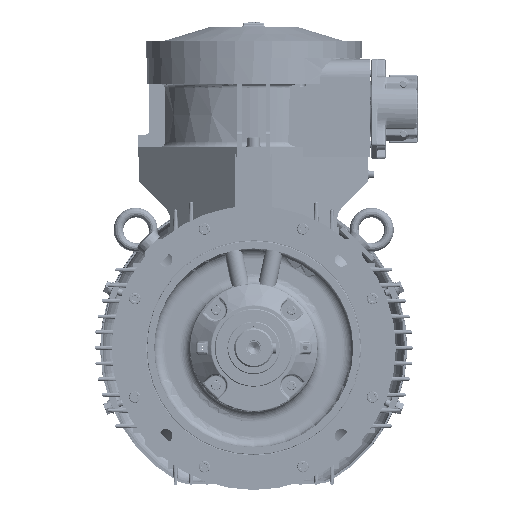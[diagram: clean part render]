
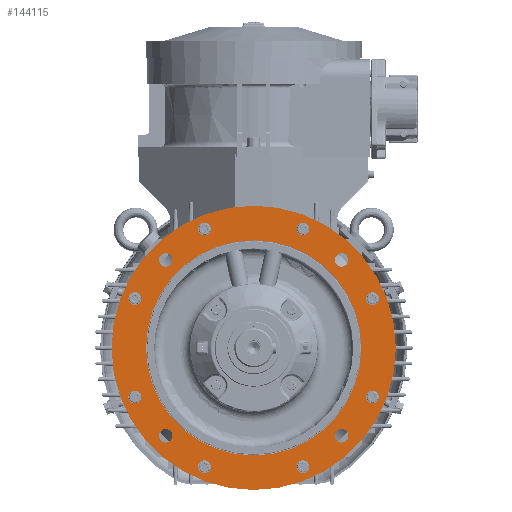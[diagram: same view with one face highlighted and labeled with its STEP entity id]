
A CAD part, left-side view. The second image highlights one B-rep face of the part: STEP entity #144115.
In plain terms, the highlighted planar face has unit normal (-1, 0, 0).
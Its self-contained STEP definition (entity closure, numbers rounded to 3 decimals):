
#27051=PLANE('',#153540);
#44295=ORIENTED_EDGE('',*,*,#75255,.F.);
#44296=ORIENTED_EDGE('',*,*,#75253,.F.);
#44297=ORIENTED_EDGE('',*,*,#75248,.T.);
#44298=ORIENTED_EDGE('',*,*,#75244,.T.);
#44299=ORIENTED_EDGE('',*,*,#75240,.T.);
#44300=ORIENTED_EDGE('',*,*,#75236,.T.);
#44301=ORIENTED_EDGE('',*,*,#75232,.T.);
#44302=ORIENTED_EDGE('',*,*,#75228,.T.);
#44303=ORIENTED_EDGE('',*,*,#75224,.T.);
#44304=ORIENTED_EDGE('',*,*,#75220,.T.);
#44305=ORIENTED_EDGE('',*,*,#75218,.F.);
#44306=ORIENTED_EDGE('',*,*,#75216,.F.);
#44307=ORIENTED_EDGE('',*,*,#75214,.F.);
#44308=ORIENTED_EDGE('',*,*,#75212,.F.);
#75212=EDGE_CURVE('',#91713,#91713,#101875,.T.);
#75214=EDGE_CURVE('',#91715,#91715,#101877,.T.);
#75216=EDGE_CURVE('',#91717,#91717,#101879,.T.);
#75218=EDGE_CURVE('',#91719,#91719,#101881,.T.);
#75220=EDGE_CURVE('',#91721,#91721,#101883,.T.);
#75224=EDGE_CURVE('',#91725,#91725,#101887,.T.);
#75228=EDGE_CURVE('',#91729,#91729,#101891,.T.);
#75232=EDGE_CURVE('',#91733,#91733,#101895,.T.);
#75236=EDGE_CURVE('',#91737,#91737,#101899,.T.);
#75240=EDGE_CURVE('',#91741,#91741,#101903,.T.);
#75244=EDGE_CURVE('',#91745,#91745,#101907,.T.);
#75248=EDGE_CURVE('',#91749,#91749,#101911,.T.);
#75253=EDGE_CURVE('',#91754,#91754,#101916,.T.);
#75255=EDGE_CURVE('',#91756,#91756,#101918,.T.);
#91713=VERTEX_POINT('',#218428);
#91715=VERTEX_POINT('',#218433);
#91717=VERTEX_POINT('',#218438);
#91719=VERTEX_POINT('',#218443);
#91721=VERTEX_POINT('',#218448);
#91725=VERTEX_POINT('',#218459);
#91729=VERTEX_POINT('',#218470);
#91733=VERTEX_POINT('',#218481);
#91737=VERTEX_POINT('',#218492);
#91741=VERTEX_POINT('',#218503);
#91745=VERTEX_POINT('',#218514);
#91749=VERTEX_POINT('',#218525);
#91754=VERTEX_POINT('',#218539);
#91756=VERTEX_POINT('',#218545);
#101875=CIRCLE('',#153467,9.5);
#101877=CIRCLE('',#153470,9.5);
#101879=CIRCLE('',#153473,9.5);
#101881=CIRCLE('',#153476,9.5);
#101883=CIRCLE('',#153479,9.);
#101887=CIRCLE('',#153486,9.);
#101891=CIRCLE('',#153493,9.);
#101895=CIRCLE('',#153500,9.);
#101899=CIRCLE('',#153507,9.);
#101903=CIRCLE('',#153514,9.);
#101907=CIRCLE('',#153521,9.);
#101911=CIRCLE('',#153528,9.);
#101916=CIRCLE('',#153537,151.4);
#101918=CIRCLE('',#153541,199.994);
#107435=EDGE_LOOP('',(#44295));
#107436=EDGE_LOOP('',(#44296));
#107437=EDGE_LOOP('',(#44297));
#107438=EDGE_LOOP('',(#44298));
#107439=EDGE_LOOP('',(#44299));
#107440=EDGE_LOOP('',(#44300));
#107441=EDGE_LOOP('',(#44301));
#107442=EDGE_LOOP('',(#44302));
#107443=EDGE_LOOP('',(#44303));
#107444=EDGE_LOOP('',(#44304));
#107445=EDGE_LOOP('',(#44305));
#107446=EDGE_LOOP('',(#44306));
#107447=EDGE_LOOP('',(#44307));
#107448=EDGE_LOOP('',(#44308));
#117127=FACE_BOUND('',#107435,.T.);
#117128=FACE_BOUND('',#107436,.T.);
#117129=FACE_BOUND('',#107437,.T.);
#117130=FACE_BOUND('',#107438,.T.);
#117131=FACE_BOUND('',#107439,.T.);
#117132=FACE_BOUND('',#107440,.T.);
#117133=FACE_BOUND('',#107441,.T.);
#117134=FACE_BOUND('',#107442,.T.);
#117135=FACE_BOUND('',#107443,.T.);
#117136=FACE_BOUND('',#107444,.T.);
#117137=FACE_BOUND('',#107445,.T.);
#117138=FACE_BOUND('',#107446,.T.);
#117139=FACE_BOUND('',#107447,.T.);
#117140=FACE_BOUND('',#107448,.T.);
#144115=ADVANCED_FACE('',(#117127,#117128,#117129,#117130,#117131,#117132,
#117133,#117134,#117135,#117136,#117137,#117138,#117139,#117140),#27051,
 .F.);
#153467=AXIS2_PLACEMENT_3D('',#218427,#172001,#172002);
#153470=AXIS2_PLACEMENT_3D('',#218432,#172007,#172008);
#153473=AXIS2_PLACEMENT_3D('',#218437,#172013,#172014);
#153476=AXIS2_PLACEMENT_3D('',#218442,#172019,#172020);
#153479=AXIS2_PLACEMENT_3D('',#218447,#172025,#172026);
#153486=AXIS2_PLACEMENT_3D('',#218458,#172039,#172040);
#153493=AXIS2_PLACEMENT_3D('',#218469,#172053,#172054);
#153500=AXIS2_PLACEMENT_3D('',#218480,#172067,#172068);
#153507=AXIS2_PLACEMENT_3D('',#218491,#172081,#172082);
#153514=AXIS2_PLACEMENT_3D('',#218502,#172095,#172096);
#153521=AXIS2_PLACEMENT_3D('',#218513,#172109,#172110);
#153528=AXIS2_PLACEMENT_3D('',#218524,#172123,#172124);
#153537=AXIS2_PLACEMENT_3D('',#218538,#172141,#172142);
#153540=AXIS2_PLACEMENT_3D('',#218543,#172147,#172148);
#153541=AXIS2_PLACEMENT_3D('',#218544,#172149,#172150);
#172001=DIRECTION('',(-1.,0.,0.));
#172002=DIRECTION('',(0.,-1.,0.));
#172007=DIRECTION('',(-1.,0.,0.));
#172008=DIRECTION('',(0.,-1.,0.));
#172013=DIRECTION('',(-1.,0.,0.));
#172014=DIRECTION('',(0.,-1.,0.));
#172019=DIRECTION('',(-1.,0.,0.));
#172020=DIRECTION('',(0.,-1.,0.));
#172025=DIRECTION('',(1.,0.,0.));
#172026=DIRECTION('',(0.,0.,-1.));
#172039=DIRECTION('',(1.,0.,0.));
#172040=DIRECTION('',(0.,0.,-1.));
#172053=DIRECTION('',(1.,0.,0.));
#172054=DIRECTION('',(0.,0.,-1.));
#172067=DIRECTION('',(1.,0.,0.));
#172068=DIRECTION('',(0.,0.,-1.));
#172081=DIRECTION('',(1.,0.,0.));
#172082=DIRECTION('',(0.,0.,-1.));
#172095=DIRECTION('',(1.,0.,0.));
#172096=DIRECTION('',(0.,0.,-1.));
#172109=DIRECTION('',(1.,0.,0.));
#172110=DIRECTION('',(0.,0.,-1.));
#172123=DIRECTION('',(1.,0.,0.));
#172124=DIRECTION('',(0.,0.,-1.));
#172141=DIRECTION('',(-1.,0.,0.));
#172142=DIRECTION('',(0.,0.,-1.));
#172147=DIRECTION('',(1.,0.,0.));
#172148=DIRECTION('',(0.,0.,1.));
#172149=DIRECTION('',(1.,0.,0.));
#172150=DIRECTION('',(0.,0.,1.));
#218427=CARTESIAN_POINT('',(-77.014,123.744,-123.744));
#218428=CARTESIAN_POINT('',(-77.014,114.244,-123.744));
#218432=CARTESIAN_POINT('',(-77.014,-123.761,-123.726));
#218433=CARTESIAN_POINT('',(-77.014,-133.261,-123.726));
#218437=CARTESIAN_POINT('',(-77.014,-123.744,123.744));
#218438=CARTESIAN_POINT('',(-77.014,-133.244,123.744));
#218442=CARTESIAN_POINT('',(-77.014,123.744,123.744));
#218443=CARTESIAN_POINT('',(-77.014,114.244,123.744));
#218447=CARTESIAN_POINT('',(-77.014,69.266,167.222));
#218448=CARTESIAN_POINT('',(-77.014,69.266,158.222));
#218458=CARTESIAN_POINT('',(-77.014,167.222,69.266));
#218459=CARTESIAN_POINT('',(-77.014,167.222,60.266));
#218469=CARTESIAN_POINT('',(-77.014,167.222,-69.266));
#218470=CARTESIAN_POINT('',(-77.014,167.222,-78.266));
#218480=CARTESIAN_POINT('',(-77.014,69.266,-167.222));
#218481=CARTESIAN_POINT('',(-77.014,69.266,-176.222));
#218491=CARTESIAN_POINT('',(-77.014,-69.266,-167.222));
#218492=CARTESIAN_POINT('',(-77.014,-69.266,-176.222));
#218502=CARTESIAN_POINT('',(-77.014,-167.222,-69.266));
#218503=CARTESIAN_POINT('',(-77.014,-167.222,-78.266));
#218513=CARTESIAN_POINT('',(-77.014,-167.222,69.266));
#218514=CARTESIAN_POINT('',(-77.014,-167.222,60.266));
#218524=CARTESIAN_POINT('',(-77.014,-69.266,167.222));
#218525=CARTESIAN_POINT('',(-77.014,-69.266,158.222));
#218538=CARTESIAN_POINT('',(-77.014,0.,0.));
#218539=CARTESIAN_POINT('',(-77.014,0.,-151.4));
#218543=CARTESIAN_POINT('',(-77.014,0.,-209.218));
#218544=CARTESIAN_POINT('',(-77.014,0.,0.));
#218545=CARTESIAN_POINT('',(-77.014,0.,199.994));
